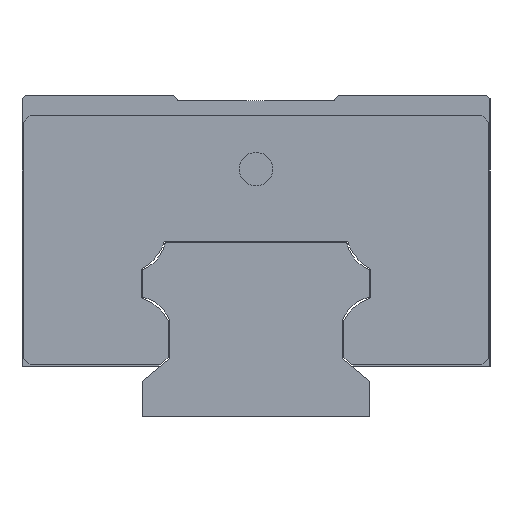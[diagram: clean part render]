
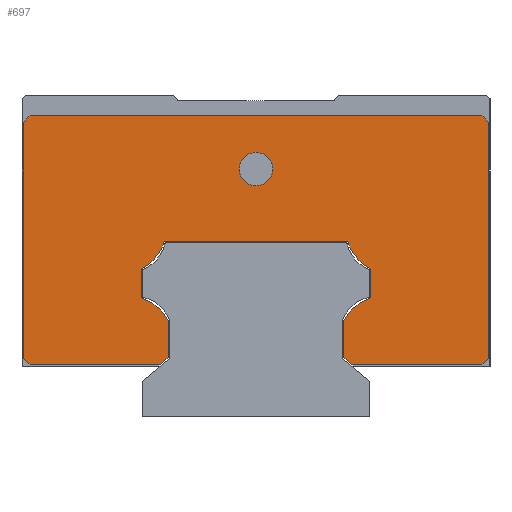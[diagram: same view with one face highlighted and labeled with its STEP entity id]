
A CAD part, left-side view. The second image highlights one B-rep face of the part: STEP entity #697.
In plain terms, the highlighted planar face has unit normal (-1, 0, 0).
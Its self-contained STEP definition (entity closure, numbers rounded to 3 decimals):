
#548=FACE_BOUND('',#979,.T.);
#549=FACE_BOUND('',#980,.T.);
#697=ADVANCED_FACE('',(#548,#549),#813,.F.);
#813=PLANE('',#2605);
#979=EDGE_LOOP('',(#1310));
#980=EDGE_LOOP('',(#1311,#1312,#1313,#1314,#1315,#1316,#1317,#1318,#1319,
#1320,#1321,#1322,#1323,#1324,#1325,#1326,#1327,#1328,#1329,#1330));
#1136=CIRCLE('',#2589,6.95);
#1137=CIRCLE('',#2592,6.95);
#1138=CIRCLE('',#2595,6.95);
#1139=CIRCLE('',#2598,6.95);
#1140=CIRCLE('',#2604,2.5);
#1310=ORIENTED_EDGE('',*,*,#2019,.F.);
#1311=ORIENTED_EDGE('',*,*,#2017,.F.);
#1312=ORIENTED_EDGE('',*,*,#2020,.T.);
#1313=ORIENTED_EDGE('',*,*,#2012,.F.);
#1314=ORIENTED_EDGE('',*,*,#2011,.F.);
#1315=ORIENTED_EDGE('',*,*,#2004,.F.);
#1316=ORIENTED_EDGE('',*,*,#1998,.F.);
#1317=ORIENTED_EDGE('',*,*,#1997,.F.);
#1318=ORIENTED_EDGE('',*,*,#1989,.F.);
#1319=ORIENTED_EDGE('',*,*,#1988,.F.);
#1320=ORIENTED_EDGE('',*,*,#1980,.F.);
#1321=ORIENTED_EDGE('',*,*,#1979,.F.);
#1322=ORIENTED_EDGE('',*,*,#1971,.F.);
#1323=ORIENTED_EDGE('',*,*,#1969,.F.);
#1324=ORIENTED_EDGE('',*,*,#1964,.F.);
#1325=ORIENTED_EDGE('',*,*,#1956,.F.);
#1326=ORIENTED_EDGE('',*,*,#2021,.T.);
#1327=ORIENTED_EDGE('',*,*,#1952,.F.);
#1328=ORIENTED_EDGE('',*,*,#2022,.T.);
#1329=ORIENTED_EDGE('',*,*,#1948,.F.);
#1330=ORIENTED_EDGE('',*,*,#2023,.T.);
#1760=VERTEX_POINT('',#3395);
#1761=VERTEX_POINT('',#3397);
#1764=VERTEX_POINT('',#3404);
#1765=VERTEX_POINT('',#3406);
#1768=VERTEX_POINT('',#3413);
#1769=VERTEX_POINT('',#3415);
#1770=VERTEX_POINT('',#3419);
#1776=VERTEX_POINT('',#3433);
#1781=VERTEX_POINT('',#3445);
#1782=VERTEX_POINT('',#3449);
#1787=VERTEX_POINT('',#3462);
#1788=VERTEX_POINT('',#3466);
#1793=VERTEX_POINT('',#3479);
#1794=VERTEX_POINT('',#3483);
#1799=VERTEX_POINT('',#3496);
#1800=VERTEX_POINT('',#3500);
#1804=VERTEX_POINT('',#3510);
#1810=VERTEX_POINT('',#3524);
#1814=VERTEX_POINT('',#3533);
#1815=VERTEX_POINT('',#3535);
#1816=VERTEX_POINT('',#3539);
#1948=EDGE_CURVE('',#1760,#1761,#2213,.T.);
#1952=EDGE_CURVE('',#1764,#1765,#2217,.T.);
#1956=EDGE_CURVE('',#1768,#1769,#2221,.T.);
#1964=EDGE_CURVE('',#1769,#1770,#2229,.T.);
#1969=EDGE_CURVE('',#1770,#1776,#2234,.T.);
#1971=EDGE_CURVE('',#1776,#1781,#1136,.T.);
#1979=EDGE_CURVE('',#1781,#1782,#2242,.T.);
#1980=EDGE_CURVE('',#1782,#1787,#1137,.T.);
#1988=EDGE_CURVE('',#1787,#1788,#2250,.T.);
#1989=EDGE_CURVE('',#1788,#1793,#1138,.T.);
#1997=EDGE_CURVE('',#1793,#1794,#2258,.T.);
#1998=EDGE_CURVE('',#1794,#1799,#1139,.T.);
#2004=EDGE_CURVE('',#1799,#1800,#2264,.T.);
#2011=EDGE_CURVE('',#1800,#1804,#2271,.T.);
#2012=EDGE_CURVE('',#1804,#1810,#2272,.T.);
#2017=EDGE_CURVE('',#1814,#1815,#2277,.T.);
#2019=EDGE_CURVE('',#1816,#1816,#1140,.T.);
#2020=EDGE_CURVE('',#1814,#1810,#2279,.T.);
#2021=EDGE_CURVE('',#1768,#1765,#2280,.T.);
#2022=EDGE_CURVE('',#1764,#1761,#2281,.T.);
#2023=EDGE_CURVE('',#1760,#1815,#2282,.T.);
#2213=LINE('',#3396,#2397);
#2217=LINE('',#3405,#2401);
#2221=LINE('',#3414,#2405);
#2229=LINE('',#3430,#2413);
#2234=LINE('',#3440,#2418);
#2242=LINE('',#3459,#2426);
#2250=LINE('',#3476,#2434);
#2258=LINE('',#3493,#2442);
#2264=LINE('',#3507,#2448);
#2271=LINE('',#3521,#2455);
#2272=LINE('',#3523,#2456);
#2277=LINE('',#3534,#2461);
#2279=LINE('',#3540,#2463);
#2280=LINE('',#3541,#2464);
#2281=LINE('',#3542,#2465);
#2282=LINE('',#3543,#2466);
#2397=VECTOR('',#2800,1.);
#2401=VECTOR('',#2806,1.);
#2405=VECTOR('',#2812,1.);
#2413=VECTOR('',#2822,1.);
#2418=VECTOR('',#2829,1.);
#2426=VECTOR('',#2845,1.);
#2434=VECTOR('',#2859,1.);
#2442=VECTOR('',#2873,1.);
#2448=VECTOR('',#2885,1.);
#2455=VECTOR('',#2894,1.);
#2456=VECTOR('',#2897,1.);
#2461=VECTOR('',#2904,1.);
#2463=VECTOR('',#2910,1.);
#2464=VECTOR('',#2911,1.);
#2465=VECTOR('',#2912,1.);
#2466=VECTOR('',#2913,1.);
#2589=AXIS2_PLACEMENT_3D('',#3444,#2834,#2835);
#2592=AXIS2_PLACEMENT_3D('',#3461,#2848,#2849);
#2595=AXIS2_PLACEMENT_3D('',#3478,#2862,#2863);
#2598=AXIS2_PLACEMENT_3D('',#3495,#2876,#2877);
#2604=AXIS2_PLACEMENT_3D('',#3538,#2908,#2909);
#2605=AXIS2_PLACEMENT_3D('',#3544,#2914,#2915);
#2800=DIRECTION('',(0.,-1.,0.));
#2806=DIRECTION('',(0.,0.,-1.));
#2812=DIRECTION('',(0.,1.,0.));
#2822=DIRECTION('',(0.,0.766,0.643));
#2829=DIRECTION('',(0.,0.,1.));
#2834=DIRECTION('',(1.,0.,0.));
#2835=DIRECTION('',(0.,1.,0.));
#2845=DIRECTION('',(0.,0.,1.));
#2848=DIRECTION('',(1.,0.,0.));
#2849=DIRECTION('',(0.,1.,0.));
#2859=DIRECTION('',(0.,1.,0.));
#2862=DIRECTION('',(1.,0.,0.));
#2863=DIRECTION('',(0.,-1.,0.));
#2873=DIRECTION('',(0.,0.,-1.));
#2876=DIRECTION('',(1.,0.,0.));
#2877=DIRECTION('',(0.,-1.,0.));
#2885=DIRECTION('',(0.,0.,-1.));
#2894=DIRECTION('',(0.,0.766,-0.643));
#2897=DIRECTION('',(0.,1.,0.));
#2904=DIRECTION('',(0.,0.,1.));
#2908=DIRECTION('',(-1.,0.,0.));
#2909=DIRECTION('',(0.,1.,0.));
#2910=DIRECTION('',(0.,-0.707,-0.707));
#2911=DIRECTION('',(0.,-0.707,0.707));
#2912=DIRECTION('',(0.,0.707,0.707));
#2913=DIRECTION('',(0.,0.707,-0.707));
#2914=DIRECTION('',(1.,0.,0.));
#2915=DIRECTION('',(0.,0.,-1.));
#3395=CARTESIAN_POINT('',(-54.5,33.8,45.));
#3396=CARTESIAN_POINT('',(-54.5,34.8,45.));
#3397=CARTESIAN_POINT('',(-54.5,-33.8,45.));
#3404=CARTESIAN_POINT('',(-54.5,-34.8,44.));
#3405=CARTESIAN_POINT('',(-54.5,-34.8,45.));
#3406=CARTESIAN_POINT('',(-54.5,-34.8,8.7));
#3413=CARTESIAN_POINT('',(-54.5,-33.8,7.7));
#3414=CARTESIAN_POINT('',(-54.5,-34.8,7.7));
#3415=CARTESIAN_POINT('',(-54.5,-14.411,7.7));
#3419=CARTESIAN_POINT('',(-54.5,-13.148,8.76));
#3430=CARTESIAN_POINT('',(-54.5,-14.411,7.7));
#3433=CARTESIAN_POINT('',(-54.5,-13.148,14.351));
#3440=CARTESIAN_POINT('',(-54.5,-13.148,8.76));
#3444=CARTESIAN_POINT('',(-54.5,-19.305,11.128));
#3445=CARTESIAN_POINT('',(-54.5,-17.2,17.751));
#3449=CARTESIAN_POINT('',(-54.5,-17.2,22.021));
#3459=CARTESIAN_POINT('',(-54.5,-17.2,17.751));
#3461=CARTESIAN_POINT('',(-54.5,-20.343,28.219));
#3462=CARTESIAN_POINT('',(-54.5,-13.693,26.2));
#3466=CARTESIAN_POINT('',(-54.5,13.693,26.2));
#3476=CARTESIAN_POINT('',(-54.5,-13.693,26.2));
#3478=CARTESIAN_POINT('',(-54.5,20.343,28.219));
#3479=CARTESIAN_POINT('',(-54.5,17.2,22.021));
#3483=CARTESIAN_POINT('',(-54.5,17.2,17.751));
#3493=CARTESIAN_POINT('',(-54.5,17.2,22.021));
#3495=CARTESIAN_POINT('',(-54.5,19.305,11.128));
#3496=CARTESIAN_POINT('',(-54.5,13.148,14.351));
#3500=CARTESIAN_POINT('',(-54.5,13.148,8.76));
#3507=CARTESIAN_POINT('',(-54.5,13.148,14.351));
#3510=CARTESIAN_POINT('',(-54.5,14.411,7.7));
#3521=CARTESIAN_POINT('',(-54.5,13.148,8.76));
#3523=CARTESIAN_POINT('',(-54.5,14.411,7.7));
#3524=CARTESIAN_POINT('',(-54.5,33.8,7.7));
#3533=CARTESIAN_POINT('',(-54.5,34.8,8.7));
#3534=CARTESIAN_POINT('',(-54.5,34.8,7.7));
#3535=CARTESIAN_POINT('',(-54.5,34.8,44.));
#3538=CARTESIAN_POINT('',(-54.5,0.,37.));
#3539=CARTESIAN_POINT('',(-54.5,2.5,37.));
#3540=CARTESIAN_POINT('',(-54.5,33.8,7.7));
#3541=CARTESIAN_POINT('',(-54.5,-34.8,8.7));
#3542=CARTESIAN_POINT('',(-54.5,-33.8,45.));
#3543=CARTESIAN_POINT('',(-54.5,34.8,44.));
#3544=CARTESIAN_POINT('',(-54.5,-19.305,11.128));
